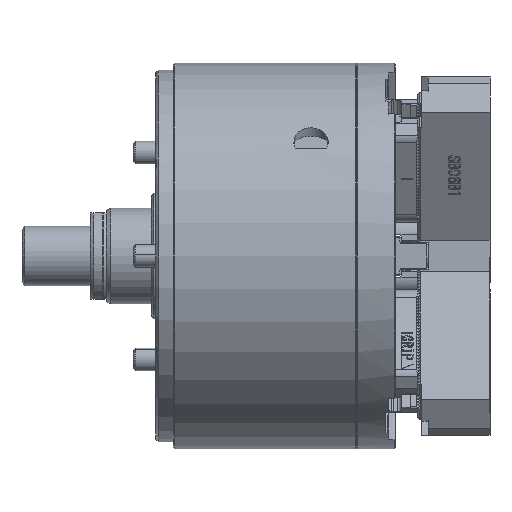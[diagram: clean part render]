
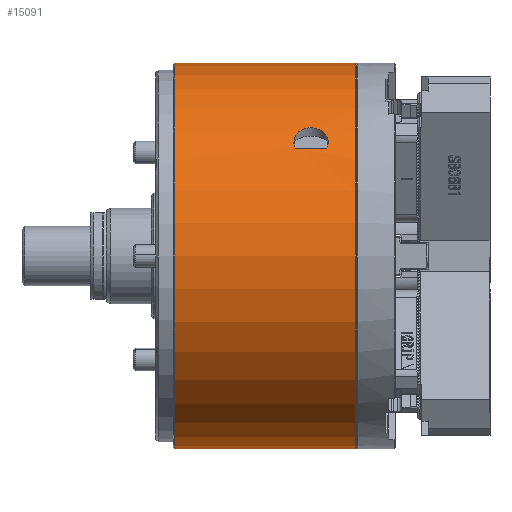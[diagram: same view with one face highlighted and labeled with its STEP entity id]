
A CAD part, front view. The second image highlights one B-rep face of the part: STEP entity #15091.
In plain terms, the highlighted cylindrical face has radius 84.5 mm (diameter 169 mm), a partial arc.
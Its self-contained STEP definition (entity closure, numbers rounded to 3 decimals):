
#1909 = EDGE_CURVE ( 'NONE', #2540, #62571, #136104, .T. ) ;
#2540 = VERTEX_POINT ( 'NONE', #58439 ) ;
#5159 = CARTESIAN_POINT ( 'NONE',  ( -33.83, -67.017, 51.472 ) ) ;
#5767 = CARTESIAN_POINT ( 'NONE',  ( -29.053, -63.376, 55.89 ) ) ;
#6089 = AXIS2_PLACEMENT_3D ( 'NONE', #131447, #132402, #79314 ) ;
#6355 = CARTESIAN_POINT ( 'NONE',  ( -22.258, -63.961, 55.221 ) ) ;
#6972 = CARTESIAN_POINT ( 'NONE',  ( -19.04, -67.585, 50.721 ) ) ;
#15091 = ADVANCED_FACE ( 'NONE', ( #94957, #132071 ), #53506, .T. ) ;
#19165 = CARTESIAN_POINT ( 'NONE',  ( -33.444, -66.251, 52.451 ) ) ;
#19751 = CARTESIAN_POINT ( 'NONE',  ( -28.128, -63.189, 56.102 ) ) ;
#20176 = ORIENTED_EDGE ( 'NONE', *, *, #127343, .T. ) ;
#20334 = CARTESIAN_POINT ( 'NONE',  ( -21.07, -64.673, 54.384 ) ) ;
#20941 = CARTESIAN_POINT ( 'NONE',  ( -19.005, -68.543, 49.422 ) ) ;
#25374 = CARTESIAN_POINT ( 'NONE',  ( -33.402, -69.987, 47.35 ) ) ;
#32434 = EDGE_LOOP ( 'NONE', ( #133021, #20176, #89038, #167095 ) ) ;
#32499 = CARTESIAN_POINT ( 'NONE',  ( -33.402, -69.987, 47.35 ) ) ;
#33093 = CARTESIAN_POINT ( 'NONE',  ( -33.048, -65.701, 53.139 ) ) ;
#33693 = CARTESIAN_POINT ( 'NONE',  ( -27.164, -63.084, 56.22 ) ) ;
#34292 = CARTESIAN_POINT ( 'NONE',  ( -20.467, -65.162, 53.798 ) ) ;
#34898 = CARTESIAN_POINT ( 'NONE',  ( -19.217, -69.283, 48.375 ) ) ;
#37112 = DIRECTION ( 'NONE',  ( -1., 0., 0. ) ) ;
#47220 = CARTESIAN_POINT ( 'NONE',  ( -32.55, -65.178, 53.778 ) ) ;
#47818 = CARTESIAN_POINT ( 'NONE',  ( -25.875, -63.082, 56.222 ) ) ;
#48411 = CARTESIAN_POINT ( 'NONE',  ( -19.965, -65.686, 53.157 ) ) ;
#49014 = CARTESIAN_POINT ( 'NONE',  ( -19.482, -69.817, 47.602 ) ) ;
#53057 = CARTESIAN_POINT ( 'NONE',  ( -6.9, 0., -84.5 ) ) ;
#53506 = CYLINDRICAL_SURFACE ( 'NONE', #6089, 84.5 ) ;
#54078 = VECTOR ( 'NONE', #158822, 1000. ) ;
#58028 = VECTOR ( 'NONE', #37112, 1000. ) ;
#58439 = CARTESIAN_POINT ( 'NONE',  ( -19.598, -69.987, 47.35 ) ) ;
#60390 = CIRCLE ( 'NONE', #127160, 84.5 ) ;
#60591 = CARTESIAN_POINT ( 'NONE',  ( -33.944, -68.739, 49.146 ) ) ;
#61162 = CARTESIAN_POINT ( 'NONE',  ( -31.948, -64.686, 54.369 ) ) ;
#61768 = CARTESIAN_POINT ( 'NONE',  ( -24.909, -63.183, 56.109 ) ) ;
#61917 = CARTESIAN_POINT ( 'NONE',  ( -6.9, 0., 0. ) ) ;
#62382 = CARTESIAN_POINT ( 'NONE',  ( -19.561, -66.242, 52.462 ) ) ;
#62571 = VERTEX_POINT ( 'NONE', #25374 ) ;
#66243 = VECTOR ( 'NONE', #145017, 1000. ) ;
#74631 = CARTESIAN_POINT ( 'NONE',  ( -34.006, -68.169, 49.933 ) ) ;
#75226 = CARTESIAN_POINT ( 'NONE',  ( -30.772, -63.975, 55.204 ) ) ;
#75832 = CARTESIAN_POINT ( 'NONE',  ( -23.982, -63.368, 55.9 ) ) ;
#75977 = DIRECTION ( 'NONE',  ( 0., 0., 1. ) ) ;
#76430 = CARTESIAN_POINT ( 'NONE',  ( -19.268, -66.811, 51.736 ) ) ;
#79314 = DIRECTION ( 'NONE',  ( 0., 0., 1. ) ) ;
#81642 = CARTESIAN_POINT ( 'NONE',  ( -86.4, 0., 0. ) ) ;
#82907 = VERTEX_POINT ( 'NONE', #120270 ) ;
#84288 = CARTESIAN_POINT ( 'NONE',  ( -6.9, 0., 84.5 ) ) ;
#84502 = B_SPLINE_CURVE_WITH_KNOTS ( 'NONE', 3,
 ( #32499, #88045, #144216, #60591, #158218, #74631, #172204, #88659, #5159, #102680, #19165, #116718, #33093, #130773, #47220, #144808, #61162, #158820, #75226, #172817, #89263, #5767, #103268, #19751, #117294, #33693, #131362, #47818, #145410, #61768, #159408, #75832, #173416, #89875, #6355, #103886, #20334, #117896, #34292, #131964, #48411, #146011, #62382, #160023, #76430, #174015, #90488, #6972, #104485, #20941, #118500, #34898, #132559, #49014, #146619 ),
 .UNSPECIFIED., .F., .F.,
 ( 4, 2, 2, 2, 2, 2, 2, 2, 2, 2, 2, 2, 2, 1, 2, 2, 2, 2, 2, 2, 2, 2, 2, 2, 2, 2, 2, 4 ),
 ( 0., 0.002, 0.003, 0.004, 0.006, 0.007, 0.008, 0.009, 0.01, 0.012, 0.013, 0.014, 0.014, 0.015, 0.016, 0.017, 0.018, 0.019, 0.021, 0.022, 0.023, 0.024, 0.025, 0.026, 0.027, 0.029, 0.03, 0.031 ),
 .UNSPECIFIED. ) ;
#88045 = CARTESIAN_POINT ( 'NONE',  ( -33.635, -69.646, 47.855 ) ) ;
#88659 = CARTESIAN_POINT ( 'NONE',  ( -33.94, -67.401, 50.969 ) ) ;
#89038 = ORIENTED_EDGE ( 'NONE', *, *, #146795, .T. ) ;
#89263 = CARTESIAN_POINT ( 'NONE',  ( -29.644, -63.546, 55.697 ) ) ;
#89875 = CARTESIAN_POINT ( 'NONE',  ( -23.096, -63.633, 55.597 ) ) ;
#90488 = CARTESIAN_POINT ( 'NONE',  ( -19.079, -67.389, 50.981 ) ) ;
#90751 = LINE ( 'NONE', #120763, #58028 ) ;
#94957 = FACE_OUTER_BOUND ( 'NONE', #32434, .T. ) ;
#95683 = DIRECTION ( 'NONE',  ( 0., 0., 1. ) ) ;
#96783 = VERTEX_POINT ( 'NONE', #53057 ) ;
#102680 = CARTESIAN_POINT ( 'NONE',  ( -33.555, -66.442, 52.209 ) ) ;
#103268 = CARTESIAN_POINT ( 'NONE',  ( -28.75, -63.305, 55.971 ) ) ;
#103886 = CARTESIAN_POINT ( 'NONE',  ( -21.753, -64.223, 54.918 ) ) ;
#104485 = CARTESIAN_POINT ( 'NONE',  ( -18.977, -68.165, 49.942 ) ) ;
#109518 = CARTESIAN_POINT ( 'NONE',  ( -70.699, -69.987, 47.35 ) ) ;
#111110 = AXIS2_PLACEMENT_3D ( 'NONE', #81642, #179237, #95683 ) ;
#112036 = EDGE_CURVE ( 'NONE', #62571, #2540, #84502, .T. ) ;
#116718 = CARTESIAN_POINT ( 'NONE',  ( -33.191, -65.881, 52.915 ) ) ;
#117294 = CARTESIAN_POINT ( 'NONE',  ( -27.808, -63.144, 56.153 ) ) ;
#117896 = CARTESIAN_POINT ( 'NONE',  ( -20.857, -64.833, 54.194 ) ) ;
#118500 = CARTESIAN_POINT ( 'NONE',  ( -19.15, -69.099, 48.638 ) ) ;
#119838 = VERTEX_POINT ( 'NONE', #124457 ) ;
#120270 = CARTESIAN_POINT ( 'NONE',  ( -86.4, 0., -84.5 ) ) ;
#120763 = CARTESIAN_POINT ( 'NONE',  ( -70.699, 0., 84.5 ) ) ;
#122156 = EDGE_CURVE ( 'NONE', #96783, #82907, #128305, .T. ) ;
#124457 = CARTESIAN_POINT ( 'NONE',  ( -86.4, 0., 84.5 ) ) ;
#127160 = AXIS2_PLACEMENT_3D ( 'NONE', #61917, #159557, #75977 ) ;
#127343 = EDGE_CURVE ( 'NONE', #96783, #155281, #60390, .T. ) ;
#128305 = LINE ( 'NONE', #144809, #54078 ) ;
#128306 = EDGE_LOOP ( 'NONE', ( #166696, #170597 ) ) ;
#130773 = CARTESIAN_POINT ( 'NONE',  ( -32.727, -65.349, 53.57 ) ) ;
#131362 = CARTESIAN_POINT ( 'NONE',  ( -26.52, -63.054, 56.254 ) ) ;
#131447 = CARTESIAN_POINT ( 'NONE',  ( -70.699, 0., 0. ) ) ;
#131964 = CARTESIAN_POINT ( 'NONE',  ( -20.289, -65.333, 53.59 ) ) ;
#132071 = FACE_BOUND ( 'NONE', #128306, .T. ) ;
#132402 = DIRECTION ( 'NONE',  ( -1., 0., 0. ) ) ;
#132559 = CARTESIAN_POINT ( 'NONE',  ( -19.382, -69.642, 47.858 ) ) ;
#133021 = ORIENTED_EDGE ( 'NONE', *, *, #122156, .F. ) ;
#133425 = CIRCLE ( 'NONE', #111110, 84.5 ) ;
#136104 = LINE ( 'NONE', #109518, #66243 ) ;
#142607 = EDGE_CURVE ( 'NONE', #82907, #119838, #133425, .T. ) ;
#144216 = CARTESIAN_POINT ( 'NONE',  ( -33.798, -69.291, 48.367 ) ) ;
#144808 = CARTESIAN_POINT ( 'NONE',  ( -32.16, -64.847, 54.178 ) ) ;
#144809 = CARTESIAN_POINT ( 'NONE',  ( -70.699, 0., -84.5 ) ) ;
#145017 = DIRECTION ( 'NONE',  ( -1., 0., 0. ) ) ;
#145410 = CARTESIAN_POINT ( 'NONE',  ( -25.23, -63.139, 56.158 ) ) ;
#146011 = CARTESIAN_POINT ( 'NONE',  ( -19.818, -65.869, 52.93 ) ) ;
#146619 = CARTESIAN_POINT ( 'NONE',  ( -19.598, -69.987, 47.35 ) ) ;
#146795 = EDGE_CURVE ( 'NONE', #155281, #119838, #90751, .T. ) ;
#155281 = VERTEX_POINT ( 'NONE', #84288 ) ;
#158218 = CARTESIAN_POINT ( 'NONE',  ( -33.976, -68.552, 49.407 ) ) ;
#158820 = CARTESIAN_POINT ( 'NONE',  ( -31.274, -64.238, 54.9 ) ) ;
#158822 = DIRECTION ( 'NONE',  ( -1., 0., 0. ) ) ;
#159408 = CARTESIAN_POINT ( 'NONE',  ( -24.287, -63.297, 55.98 ) ) ;
#159557 = DIRECTION ( 'NONE',  ( -1., 0., 0. ) ) ;
#160023 = CARTESIAN_POINT ( 'NONE',  ( -19.452, -66.431, 52.224 ) ) ;
#166696 = ORIENTED_EDGE ( 'NONE', *, *, #1909, .T. ) ;
#167095 = ORIENTED_EDGE ( 'NONE', *, *, #142607, .F. ) ;
#170597 = ORIENTED_EDGE ( 'NONE', *, *, #112036, .T. ) ;
#172204 = CARTESIAN_POINT ( 'NONE',  ( -34.002, -67.977, 50.195 ) ) ;
#172817 = CARTESIAN_POINT ( 'NONE',  ( -29.934, -63.644, 55.585 ) ) ;
#173416 = CARTESIAN_POINT ( 'NONE',  ( -23.388, -63.535, 55.709 ) ) ;
#174015 = CARTESIAN_POINT ( 'NONE',  ( -19.193, -67.003, 51.488 ) ) ;
#179237 = DIRECTION ( 'NONE',  ( -1., 0., 0. ) ) ;
